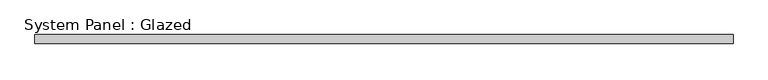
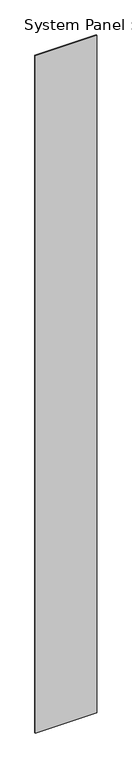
"""IFC4 building model written with IfcOpenShell, lengths in millimetres: plate geometry, System Panel : Glazed."""

from ifc_helpers import new_model, si_unit, origin, origin_with_axes, place, context, project, spatial, polyline, outline, extrude, source, transform, mapped, element, save


def system_panel_glazed_12509dcc(model_context):
    return source(origin(), model_context, "Body", "SweptSolid", [
        extrude(outline(polyline([(962.5, 24.5), (-962.5, 24.5), (-962.5, 49.5), (962.5, 49.5), (962.5, 24.5)])), origin_with_axes(), (0.0, 0.0, 1.0), 22417.4691077),
    ])


if __name__ == "__main__":
    model = new_model("IFC4")
    model_context = context("Model", 3, world=origin())
    ifc_project = project(units=[si_unit("LENGTHUNIT", "METRE", prefix="MILLI")], contexts=[model_context])
    site = spatial("IfcSite", under=ifc_project)
    building = spatial("IfcBuilding", under=site)
    placement = place(None, origin())
    system_panel_glazed_shape = system_panel_glazed_12509dcc(model_context)
    element("IfcPlate", 1, ObjectType="System Panel : Glazed", at=placement, inside=building, context=model_context, shape_type="MappedRepresentation", body=[
        mapped(system_panel_glazed_shape, transform((0.0, 0.0, 0.0), x_axis=(1.0, 0.0, 0.0), y_axis=(0.0, 1.0, 0.0), z_axis=(0.0, 0.0, 1.0))),
    ])
    save(model, "model.ifc")
